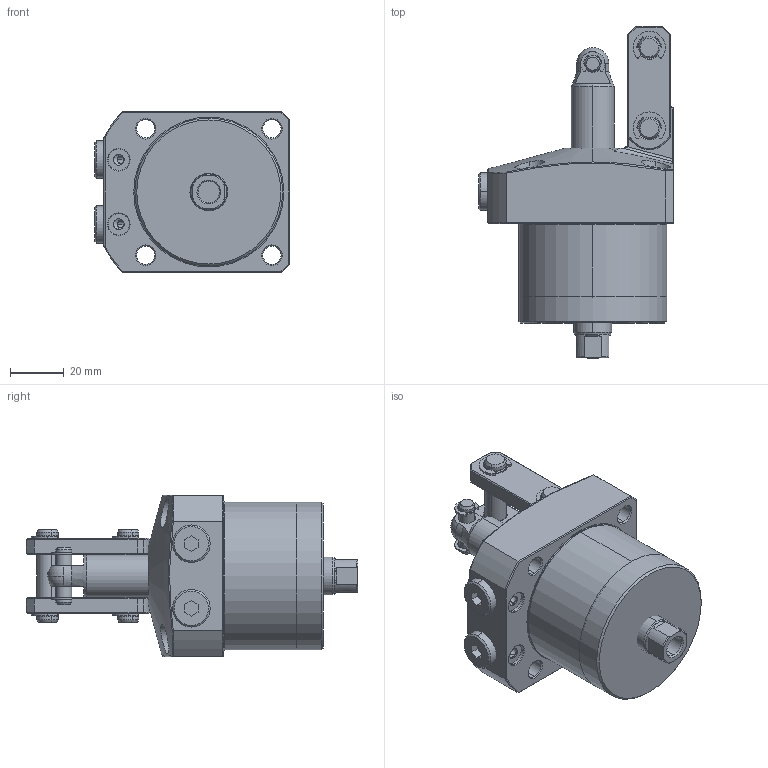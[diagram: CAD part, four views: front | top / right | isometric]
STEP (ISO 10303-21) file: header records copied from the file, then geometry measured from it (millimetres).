
FILE_DESCRIPTION(/* description */ (''),/* implementation_level */ '2;1');
FILE_NAME(/* name */ 'KTPC55-FD.stp',/* time_stamp */ '2022-11-19T07:45:50+08:00',/* author */ (''),/* organization */ (''),/* preprocessor_version */ 'ST-DEVELOPER v16.7',/* originating_system */ 'SIEMENS PLM Software NX 12.0',/* authorisation */ '');
FILE_SCHEMA (('AP203_CONFIGURATION_CONTROLLED_3D_DESIGN_OF_MECHANICAL_PARTS_AND_ASSEMBLIES_MIM_LF { 1 0 10303 403 2 1 2}'));
Length unit declared in the file: millimetre
Products named in the file (10): KTPC55-FD-01; KTPC55-FD-02; KTPC55-FD-08; KTPC55-FD-06; KTPC55-FD-05; KTPC55-FD-09; KTPC55-FD-04; KTPC55-FD-07; KTPC55-FD-03; LKA0550-CCD_step
Assembly tree (16 placements, depth 2):
  LKA0550-CCD_step
    KTPC55-FD-03
    KTPC55-FD-07
    KTPC55-FD-04  x2
    KTPC55-FD-09  x4
    KTPC55-FD-05  x2
    KTPC55-FD-06  x2
    KTPC55-FD-08  x2
    KTPC55-FD-02
    KTPC55-FD-01
Bounding box: 72.5 x 123.5 x 60 mm (x, y, z)
Volume: 272470.6 mm3; surface area: 47094.4 mm2
Topology: 16 solids, 16 shells, 592 faces, 1430 edges, 893 vertices
Faces by surface type: cylinder 244, plane 185, cone 80, torus 64, bspline 17, sphere 2
Full cylindrical faces by diameter (mm): 55 x1
Entity records: 13659 total; most frequent: CARTESIAN_POINT 3390, DIRECTION 1954, ORIENTED_EDGE 1816, EDGE_CURVE 908, AXIS2_PLACEMENT_3D 791, VERTEX_POINT 563, EDGE_LOOP 427, CIRCLE 406
